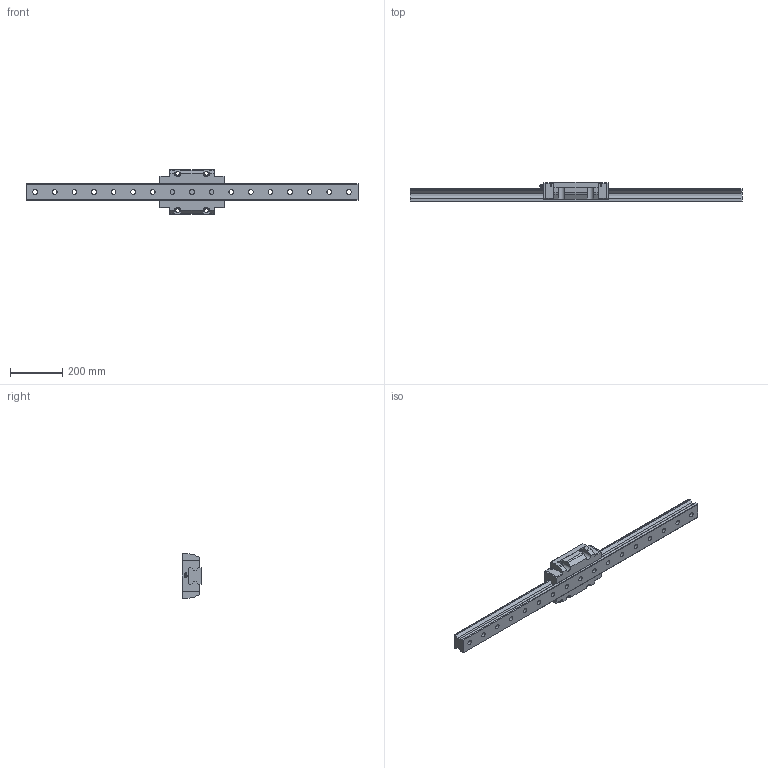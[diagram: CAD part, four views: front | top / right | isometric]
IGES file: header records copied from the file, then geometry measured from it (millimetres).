
Start section: Data from Parasolid IGES Translator 26.0.171, Copyright(c) 2006 Siemens PLM Software. All Rights Reserved.
Global section: file name: SRN65C1SS-1270L_G35_0_B-PT18_512-55_0_0_0_1.igs; native system: By Siemens PLM Incorporated; preprocessor: XPlus GENERIC/IGES 26.0.171; author: Noname; organization: Noname; date: 20240523.104228; units: millimetre
Bounding box: 1270 x 75 x 170 mm (x, y, z)
Surface area: 511315.3 mm2 (no closed solid volume)
Topology: 0 solids, 0 shells, 256 faces, 1359 edges, 1268 vertices
Faces by surface type: extrusion 162, revolution 94
